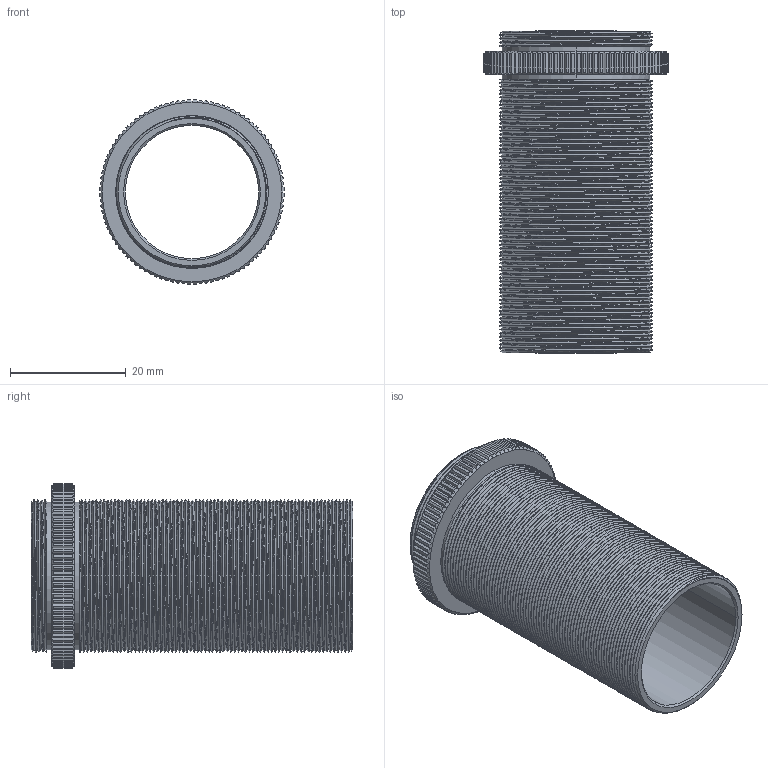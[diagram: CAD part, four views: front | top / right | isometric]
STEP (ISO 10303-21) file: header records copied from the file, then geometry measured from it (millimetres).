
FILE_DESCRIPTION((''),'2;1');
FILE_NAME('CSM1-148','2021-12-20T',('Administrator'),(''),'CREO PARAMETRIC BY PTC INC, 2015290','CREO PARAMETRIC BY PTC INC, 2015290','');
FILE_SCHEMA(('CONFIG_CONTROL_DESIGN'));
Products named in the file (1): CSM1-148
Bounding box: 31.79 x 55.5 x 31.79 mm (x, y, z)
Volume: 7258.2 mm3; surface area: 11869.8 mm2
Topology: 1 solids, 1 shells, 522 faces, 1520 edges, 1004 vertices
Faces by surface type: cylinder 260, plane 206, bspline 44, cone 12
Entity records: 38134 total; most frequent: CARTESIAN_POINT 25766, ORIENTED_EDGE 3040, DIRECTION 1922, EDGE_CURVE 1520, VERTEX_POINT 1004, B_SPLINE_CURVE_WITH_KNOTS 782, AXIS2_PLACEMENT_3D 706, EDGE_LOOP 528
